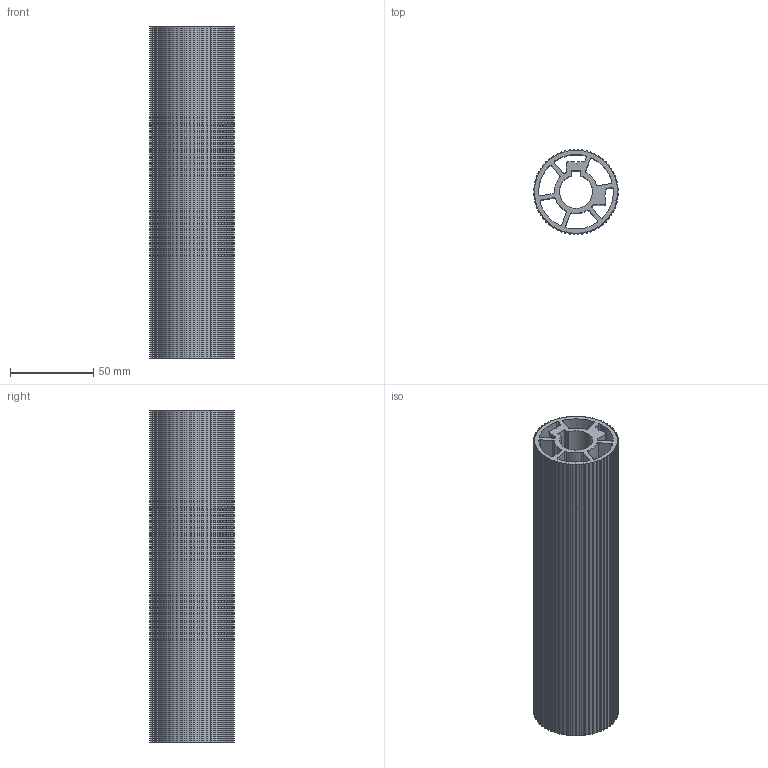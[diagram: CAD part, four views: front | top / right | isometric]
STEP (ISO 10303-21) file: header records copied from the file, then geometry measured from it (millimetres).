
FILE_DESCRIPTION (( 'STEP AP203' ), '1' );
FILE_NAME ('013979 REF RODILLO 50.STEP', '2015-12-01T11:51:44', ( '' ), ( '' ), 'SwSTEP 2.0', 'SolidWorks 2015', '' );
FILE_SCHEMA (( 'CONFIG_CONTROL_DESIGN' ));
Length unit declared in the file: millimetre
Products named in the file (1): 013979 REF RODILLO 50
Bounding box: 50.97 x 50.97 x 200 mm (x, y, z)
Volume: 170842.4 mm3; surface area: 119771.9 mm2
Topology: 1 solids, 1 shells, 324 faces, 966 edges, 644 vertices
Faces by surface type: cylinder 173, plane 151
Entity records: 11101 total; most frequent: DIRECTION 1962, CARTESIAN_POINT 1935, ORIENTED_EDGE 1932, EDGE_CURVE 966, AXIS2_PLACEMENT_3D 671, VERTEX_POINT 644, VECTOR 620, LINE 620
